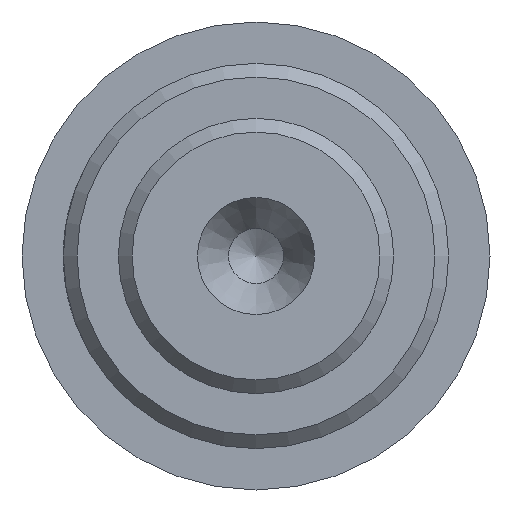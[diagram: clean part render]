
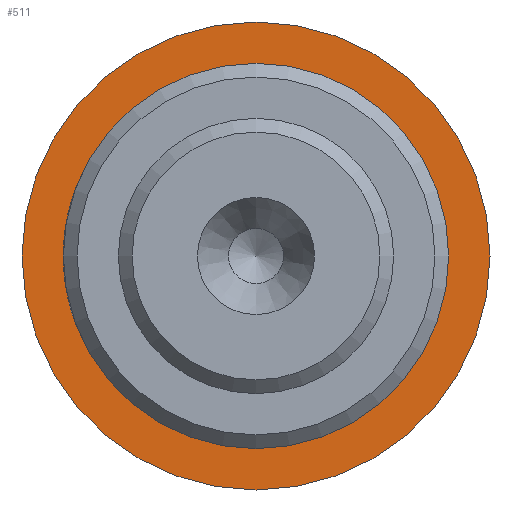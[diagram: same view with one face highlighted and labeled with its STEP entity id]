
A CAD part, left-side view. The second image highlights one B-rep face of the part: STEP entity #511.
In plain terms, the highlighted planar face has unit normal (-1, 0, 0).
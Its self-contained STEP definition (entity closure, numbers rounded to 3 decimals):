
#21=FACE_BOUND('',#117,.T.);
#42=PLANE('',#584);
#79=FACE_OUTER_BOUND('',#116,.T.);
#116=EDGE_LOOP('',(#434));
#117=EDGE_LOOP('',(#435));
#208=CIRCLE('',#583,7.);
#209=CIRCLE('',#585,8.5);
#257=VERTEX_POINT('',#948);
#258=VERTEX_POINT('',#952);
#319=EDGE_CURVE('',#257,#257,#208,.T.);
#321=EDGE_CURVE('',#258,#258,#209,.T.);
#434=ORIENTED_EDGE('',*,*,#321,.F.);
#435=ORIENTED_EDGE('',*,*,#319,.T.);
#511=ADVANCED_FACE('',(#79,#21),#42,.T.);
#583=AXIS2_PLACEMENT_3D('',#949,#713,#714);
#584=AXIS2_PLACEMENT_3D('',#951,#716,#717);
#585=AXIS2_PLACEMENT_3D('',#953,#718,#719);
#713=DIRECTION('center_axis',(1.,0.,0.));
#714=DIRECTION('ref_axis',(0.,0.,-1.));
#716=DIRECTION('center_axis',(-1.,0.,0.));
#717=DIRECTION('ref_axis',(0.,0.,1.));
#718=DIRECTION('center_axis',(1.,0.,0.));
#719=DIRECTION('ref_axis',(0.,0.,-1.));
#948=CARTESIAN_POINT('',(31.,-7.,0.));
#949=CARTESIAN_POINT('Origin',(31.,0.,0.));
#951=CARTESIAN_POINT('Origin',(31.,8.5,0.));
#952=CARTESIAN_POINT('',(31.,-8.5,0.));
#953=CARTESIAN_POINT('Origin',(31.,0.,0.));
